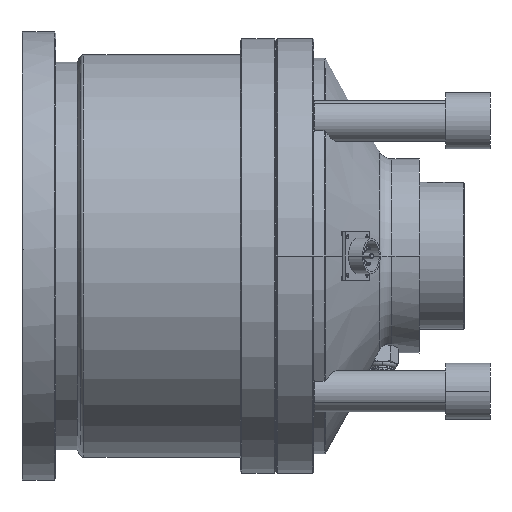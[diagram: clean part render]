
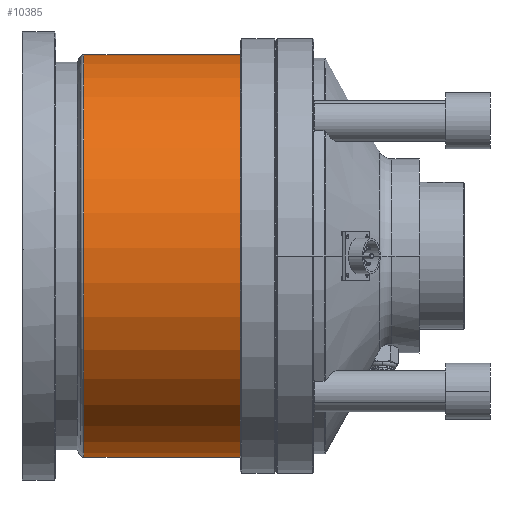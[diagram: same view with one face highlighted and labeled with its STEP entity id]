
A CAD part, left-side view. The second image highlights one B-rep face of the part: STEP entity #10385.
In plain terms, the highlighted cylindrical face has radius 137 mm (diameter 274 mm), a partial arc.
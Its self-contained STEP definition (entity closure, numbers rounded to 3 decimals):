
#529 = AXIS2_PLACEMENT_3D ( 'NONE', #22155, #21618, #21718 ) ;
#1587 = CIRCLE ( 'NONE', #31146, 137. ) ;
#1965 = CYLINDRICAL_SURFACE ( 'NONE', #529, 137. ) ;
#2130 = AXIS2_PLACEMENT_3D ( 'NONE', #18843, #18830, #18786 ) ;
#5013 = VECTOR ( 'NONE', #41776, 1000. ) ;
#5047 = DIRECTION ( 'NONE',  ( 0., 0., 1. ) ) ;
#5103 = DIRECTION ( 'NONE',  ( 1., 0., 0. ) ) ;
#5148 = CARTESIAN_POINT ( 'NONE',  ( 43.637, 0., 0. ) ) ;
#6710 = LINE ( 'NONE', #41926, #5013 ) ;
#7994 = VERTEX_POINT ( 'NONE', #23398 ) ;
#9818 = ORIENTED_EDGE ( 'NONE', *, *, #28352, .T. ) ;
#10385 = ADVANCED_FACE ( 'NONE', ( #26010 ), #1965, .T. ) ;
#10592 = ORIENTED_EDGE ( 'NONE', *, *, #26852, .T. ) ;
#12815 = VERTEX_POINT ( 'NONE', #13247 ) ;
#13247 = CARTESIAN_POINT ( 'NONE',  ( 43.637, 0., 137. ) ) ;
#15382 = EDGE_CURVE ( 'NONE', #18919, #40854, #35700, .T. ) ;
#16587 = VECTOR ( 'NONE', #22125, 1000. ) ;
#18786 = DIRECTION ( 'NONE',  ( 0., 0., 1. ) ) ;
#18830 = DIRECTION ( 'NONE',  ( 1., 0., 0. ) ) ;
#18843 = CARTESIAN_POINT ( 'NONE',  ( 150.018, 0., 0. ) ) ;
#18919 = VERTEX_POINT ( 'NONE', #25027 ) ;
#20319 = ORIENTED_EDGE ( 'NONE', *, *, #37444, .F. ) ;
#21618 = DIRECTION ( 'NONE',  ( -1., 0., 0. ) ) ;
#21718 = DIRECTION ( 'NONE',  ( 0., 0., 1. ) ) ;
#22125 = DIRECTION ( 'NONE',  ( -1., 0., 0. ) ) ;
#22155 = CARTESIAN_POINT ( 'NONE',  ( 0., 0., 0. ) ) ;
#22156 = CARTESIAN_POINT ( 'NONE',  ( 0., 0., -137. ) ) ;
#23398 = CARTESIAN_POINT ( 'NONE',  ( 43.637, 0., -137. ) ) ;
#25027 = CARTESIAN_POINT ( 'NONE',  ( 150.018, 0., 137. ) ) ;
#26010 = FACE_OUTER_BOUND ( 'NONE', #37660, .T. ) ;
#26852 = EDGE_CURVE ( 'NONE', #18919, #12815, #6710, .T. ) ;
#27838 = LINE ( 'NONE', #22156, #16587 ) ;
#28352 = EDGE_CURVE ( 'NONE', #12815, #7994, #1587, .T. ) ;
#31146 = AXIS2_PLACEMENT_3D ( 'NONE', #5148, #5103, #5047 ) ;
#35700 = CIRCLE ( 'NONE', #2130, 137. ) ;
#36977 = CARTESIAN_POINT ( 'NONE',  ( 150.018, 0., -137. ) ) ;
#37444 = EDGE_CURVE ( 'NONE', #40854, #7994, #27838, .T. ) ;
#37660 = EDGE_LOOP ( 'NONE', ( #20319, #44321, #10592, #9818 ) ) ;
#40854 = VERTEX_POINT ( 'NONE', #36977 ) ;
#41776 = DIRECTION ( 'NONE',  ( -1., 0., 0. ) ) ;
#41926 = CARTESIAN_POINT ( 'NONE',  ( 0., 0., 137. ) ) ;
#44321 = ORIENTED_EDGE ( 'NONE', *, *, #15382, .F. ) ;
